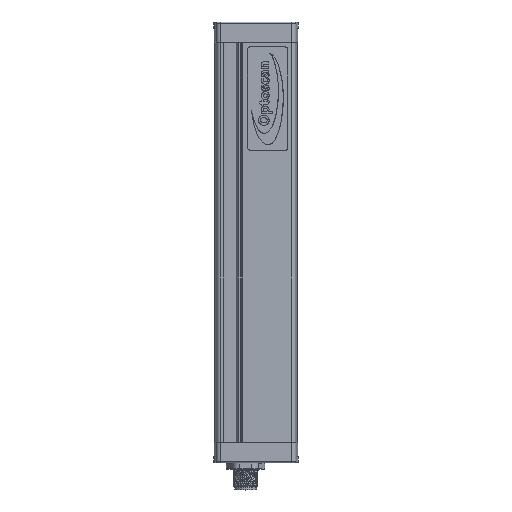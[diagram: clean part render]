
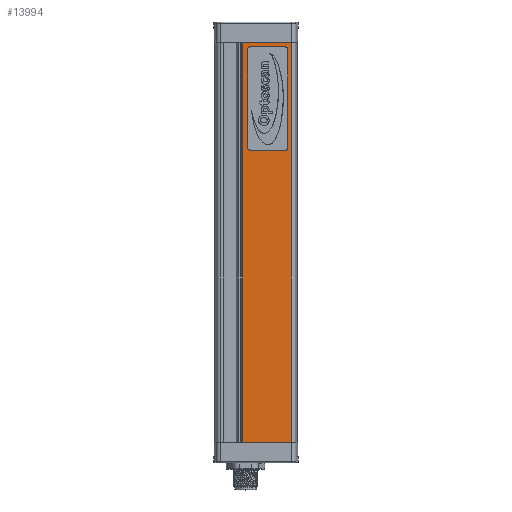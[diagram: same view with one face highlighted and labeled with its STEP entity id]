
A CAD part, top view. The second image highlights one B-rep face of the part: STEP entity #13994.
In plain terms, the highlighted planar face has unit normal (0, 0, 1).
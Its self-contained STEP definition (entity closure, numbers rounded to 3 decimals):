
#178=FACE_BOUND('',#2301,.T.);
#465=CIRCLE('',#14705,1.45);
#471=CIRCLE('',#14713,1.45);
#475=CIRCLE('',#14719,1.45);
#479=CIRCLE('',#14725,1.45);
#1087=PLANE('',#14838);
#1540=FACE_OUTER_BOUND('',#2300,.T.);
#2300=EDGE_LOOP('',(#10013,#10014,#10015,#10016));
#2301=EDGE_LOOP('',(#10017,#10018,#10019,#10020,#10021,#10022,#10023,#10024));
#3335=LINE('',#20524,#4399);
#3337=LINE('',#20536,#4401);
#3339=LINE('',#20548,#4403);
#3341=LINE('',#20557,#4405);
#3552=LINE('',#22724,#4616);
#3553=LINE('',#22726,#4617);
#3554=LINE('',#22728,#4618);
#3555=LINE('',#22729,#4619);
#4399=VECTOR('',#16340,10.);
#4401=VECTOR('',#16354,10.);
#4403=VECTOR('',#16368,10.);
#4405=VECTOR('',#16380,10.);
#4616=VECTOR('',#16815,10.);
#4617=VECTOR('',#16816,10.);
#4618=VECTOR('',#16817,10.);
#4619=VECTOR('',#16818,10.);
#5567=VERTEX_POINT('',#20512);
#5568=VERTEX_POINT('',#20514);
#5570=VERTEX_POINT('',#20520);
#5572=VERTEX_POINT('',#20526);
#5574=VERTEX_POINT('',#20532);
#5576=VERTEX_POINT('',#20538);
#5578=VERTEX_POINT('',#20544);
#5580=VERTEX_POINT('',#20550);
#5822=VERTEX_POINT('',#22722);
#5823=VERTEX_POINT('',#22723);
#5824=VERTEX_POINT('',#22725);
#5825=VERTEX_POINT('',#22727);
#6977=EDGE_CURVE('',#5567,#5568,#465,.T.);
#6982=EDGE_CURVE('',#5568,#5570,#3335,.T.);
#6985=EDGE_CURVE('',#5570,#5572,#471,.T.);
#6988=EDGE_CURVE('',#5572,#5574,#3337,.T.);
#6991=EDGE_CURVE('',#5574,#5576,#475,.T.);
#6994=EDGE_CURVE('',#5576,#5578,#3339,.T.);
#6997=EDGE_CURVE('',#5578,#5580,#479,.T.);
#6999=EDGE_CURVE('',#5580,#5567,#3341,.T.);
#7368=EDGE_CURVE('',#5822,#5823,#3552,.T.);
#7369=EDGE_CURVE('',#5823,#5824,#3553,.T.);
#7370=EDGE_CURVE('',#5825,#5824,#3554,.T.);
#7371=EDGE_CURVE('',#5822,#5825,#3555,.T.);
#10013=ORIENTED_EDGE('',*,*,#7368,.T.);
#10014=ORIENTED_EDGE('',*,*,#7369,.T.);
#10015=ORIENTED_EDGE('',*,*,#7370,.F.);
#10016=ORIENTED_EDGE('',*,*,#7371,.F.);
#10017=ORIENTED_EDGE('',*,*,#6977,.F.);
#10018=ORIENTED_EDGE('',*,*,#6999,.F.);
#10019=ORIENTED_EDGE('',*,*,#6997,.F.);
#10020=ORIENTED_EDGE('',*,*,#6994,.F.);
#10021=ORIENTED_EDGE('',*,*,#6991,.F.);
#10022=ORIENTED_EDGE('',*,*,#6988,.F.);
#10023=ORIENTED_EDGE('',*,*,#6985,.F.);
#10024=ORIENTED_EDGE('',*,*,#6982,.F.);
#13994=ADVANCED_FACE('',(#1540,#178),#1087,.T.);
#14705=AXIS2_PLACEMENT_3D('',#20515,#16329,#16330);
#14713=AXIS2_PLACEMENT_3D('',#20530,#16347,#16348);
#14719=AXIS2_PLACEMENT_3D('',#20542,#16361,#16362);
#14725=AXIS2_PLACEMENT_3D('',#20554,#16375,#16376);
#14838=AXIS2_PLACEMENT_3D('',#22721,#16813,#16814);
#16329=DIRECTION('center_axis',(0.,0.,
1.));
#16330=DIRECTION('ref_axis',(1.,0.,0.));
#16340=DIRECTION('',(1.,0.,0.));
#16347=DIRECTION('center_axis',(0.,0.,
1.));
#16348=DIRECTION('ref_axis',(1.,0.,0.));
#16354=DIRECTION('',(0.,1.,0.));
#16361=DIRECTION('center_axis',(0.,0.,
1.));
#16362=DIRECTION('ref_axis',(1.,0.,0.));
#16368=DIRECTION('',(-1.,0.,0.));
#16375=DIRECTION('center_axis',(0.,0.,
1.));
#16376=DIRECTION('ref_axis',(1.,0.,0.));
#16380=DIRECTION('',(0.,-1.,0.));
#16813=DIRECTION('center_axis',(0.,0.,
1.));
#16814=DIRECTION('ref_axis',(1.,0.,0.));
#16815=DIRECTION('',(1.,0.,0.));
#16816=DIRECTION('',(0.,1.,0.));
#16817=DIRECTION('',(1.,0.,0.));
#16818=DIRECTION('',(0.,1.,0.));
#20512=CARTESIAN_POINT('',(-42.765,141.7,28.879));
#20514=CARTESIAN_POINT('',(-41.315,140.25,28.879));
#20515=CARTESIAN_POINT('Origin',(-41.315,141.7,28.879));
#20520=CARTESIAN_POINT('',(-24.915,140.25,28.879));
#20524=CARTESIAN_POINT('',(-37.215,140.25,28.879));
#20526=CARTESIAN_POINT('',(-23.465,141.7,28.879));
#20530=CARTESIAN_POINT('Origin',(-24.915,141.7,28.879));
#20532=CARTESIAN_POINT('',(-23.465,188.5,28.879));
#20536=CARTESIAN_POINT('',(-23.465,153.4,28.879));
#20538=CARTESIAN_POINT('',(-24.915,189.95,28.879));
#20542=CARTESIAN_POINT('Origin',(-24.915,188.5,28.879));
#20544=CARTESIAN_POINT('',(-41.315,189.95,28.879));
#20548=CARTESIAN_POINT('',(-29.015,189.95,28.879));
#20550=CARTESIAN_POINT('',(-42.765,188.5,28.879));
#20554=CARTESIAN_POINT('Origin',(-41.315,188.5,28.879));
#20557=CARTESIAN_POINT('',(-42.765,176.8,28.879));
#22721=CARTESIAN_POINT('Origin',(-44.965,0.,
28.879));
#22722=CARTESIAN_POINT('',(-44.965,0.,28.879));
#22723=CARTESIAN_POINT('',(-21.664,0.,28.879));
#22724=CARTESIAN_POINT('',(-44.965,0.,28.879));
#22725=CARTESIAN_POINT('',(-21.664,192.,28.879));
#22726=CARTESIAN_POINT('',(-21.664,0.,28.879));
#22727=CARTESIAN_POINT('',(-44.965,192.,28.879));
#22728=CARTESIAN_POINT('',(-44.965,192.,28.879));
#22729=CARTESIAN_POINT('',(-44.965,0.,28.879));
